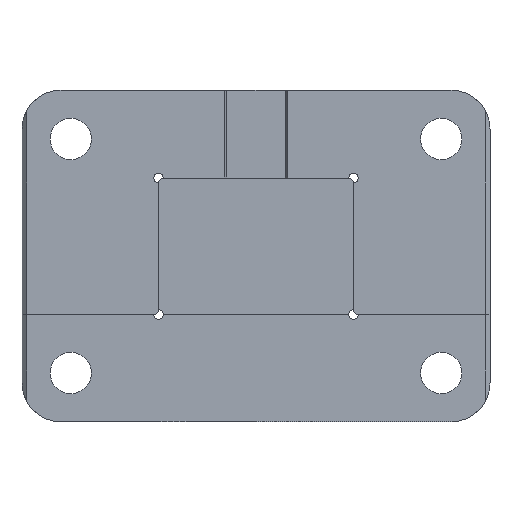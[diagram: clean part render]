
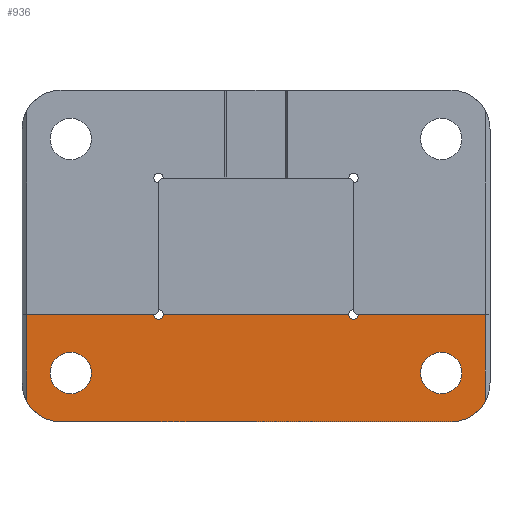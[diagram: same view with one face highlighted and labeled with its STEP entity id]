
A CAD part, front view. The second image highlights one B-rep face of the part: STEP entity #936.
In plain terms, the highlighted planar face has unit normal (0, -1, 0).
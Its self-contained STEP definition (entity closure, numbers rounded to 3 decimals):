
#38=PLANE('',#1026);
#71=CIRCLE('',#1012,1.524);
#77=CIRCLE('',#1024,1.524);
#79=CIRCLE('',#1027,6.731);
#80=CIRCLE('',#1028,6.731);
#81=CIRCLE('',#1029,12.7);
#82=CIRCLE('',#1030,12.7);
#143=ORIENTED_EDGE('',*,*,#397,.F.);
#144=ORIENTED_EDGE('',*,*,#398,.F.);
#145=ORIENTED_EDGE('',*,*,#399,.F.);
#146=ORIENTED_EDGE('',*,*,#400,.T.);
#147=ORIENTED_EDGE('',*,*,#401,.F.);
#148=ORIENTED_EDGE('',*,*,#394,.T.);
#149=ORIENTED_EDGE('',*,*,#402,.F.);
#150=ORIENTED_EDGE('',*,*,#376,.T.);
#151=ORIENTED_EDGE('',*,*,#403,.F.);
#152=ORIENTED_EDGE('',*,*,#404,.F.);
#153=ORIENTED_EDGE('',*,*,#405,.F.);
#154=ORIENTED_EDGE('',*,*,#406,.F.);
#376=EDGE_CURVE('',#501,#506,#71,.T.);
#394=EDGE_CURVE('',#519,#518,#77,.T.);
#397=EDGE_CURVE('',#521,#521,#79,.T.);
#398=EDGE_CURVE('',#522,#522,#80,.T.);
#399=EDGE_CURVE('',#523,#524,#81,.T.);
#400=EDGE_CURVE('',#523,#525,#609,.T.);
#401=EDGE_CURVE('',#519,#525,#610,.T.);
#402=EDGE_CURVE('',#501,#518,#611,.T.);
#403=EDGE_CURVE('',#526,#506,#612,.T.);
#404=EDGE_CURVE('',#527,#526,#613,.T.);
#405=EDGE_CURVE('',#528,#527,#82,.T.);
#406=EDGE_CURVE('',#524,#528,#614,.T.);
#501=VERTEX_POINT('',#1404);
#506=VERTEX_POINT('',#1413);
#518=VERTEX_POINT('',#1449);
#519=VERTEX_POINT('',#1451);
#521=VERTEX_POINT('',#1457);
#522=VERTEX_POINT('',#1459);
#523=VERTEX_POINT('',#1461);
#524=VERTEX_POINT('',#1462);
#525=VERTEX_POINT('',#1464);
#526=VERTEX_POINT('',#1468);
#527=VERTEX_POINT('',#1470);
#528=VERTEX_POINT('',#1472);
#609=LINE('',#1463,#693);
#610=LINE('',#1465,#694);
#611=LINE('',#1466,#695);
#612=LINE('',#1467,#696);
#613=LINE('',#1469,#697);
#614=LINE('',#1473,#698);
#693=VECTOR('',#1171,1000.);
#694=VECTOR('',#1172,1000.);
#695=VECTOR('',#1173,1000.);
#696=VECTOR('',#1174,1000.);
#697=VECTOR('',#1175,1000.);
#698=VECTOR('',#1178,1000.);
#768=EDGE_LOOP('',(#143));
#769=EDGE_LOOP('',(#144));
#770=EDGE_LOOP('',(#145,#146,#147,#148,#149,#150,#151,#152,#153,#154));
#842=FACE_BOUND('',#768,.T.);
#843=FACE_BOUND('',#769,.T.);
#844=FACE_BOUND('',#770,.T.);
#936=ADVANCED_FACE('',(#842,#843,#844),#38,.F.);
#1012=AXIS2_PLACEMENT_3D('',#1414,#1122,#1123);
#1024=AXIS2_PLACEMENT_3D('',#1450,#1158,#1159);
#1026=AXIS2_PLACEMENT_3D('',#1455,#1163,#1164);
#1027=AXIS2_PLACEMENT_3D('',#1456,#1165,#1166);
#1028=AXIS2_PLACEMENT_3D('',#1458,#1167,#1168);
#1029=AXIS2_PLACEMENT_3D('',#1460,#1169,#1170);
#1030=AXIS2_PLACEMENT_3D('',#1471,#1176,#1177);
#1122=DIRECTION('',(0.,1.,0.));
#1123=DIRECTION('',(1.,0.,0.));
#1158=DIRECTION('',(0.,1.,0.));
#1159=DIRECTION('',(1.,0.,0.));
#1163=DIRECTION('',(0.,1.,0.));
#1164=DIRECTION('',(0.,0.,1.));
#1165=DIRECTION('',(0.,-1.,0.));
#1166=DIRECTION('',(0.,0.,-1.));
#1167=DIRECTION('',(0.,-1.,0.));
#1168=DIRECTION('',(0.,0.,-1.));
#1169=DIRECTION('',(0.,1.,0.));
#1170=DIRECTION('',(1.,0.,0.));
#1171=DIRECTION('',(0.,0.,1.));
#1172=DIRECTION('',(1.,0.,0.));
#1173=DIRECTION('',(1.,0.,0.));
#1174=DIRECTION('',(1.,0.,0.));
#1175=DIRECTION('',(0.,0.,1.));
#1176=DIRECTION('',(0.,1.,0.));
#1177=DIRECTION('',(1.,0.,0.));
#1178=DIRECTION('',(-1.,0.,0.));
#1404=CARTESIAN_POINT('',(-30.226,0.,0.));
#1413=CARTESIAN_POINT('',(-33.274,0.,0.));
#1414=CARTESIAN_POINT('',(-31.75,0.,0.));
#1449=CARTESIAN_POINT('',(30.226,0.,0.));
#1450=CARTESIAN_POINT('',(31.75,0.,0.));
#1451=CARTESIAN_POINT('',(33.274,0.,0.));
#1455=CARTESIAN_POINT('',(-63.5,0.,-22.225));
#1456=CARTESIAN_POINT('',(-60.325,0.,-19.05));
#1457=CARTESIAN_POINT('',(-60.325,0.,-25.781));
#1458=CARTESIAN_POINT('',(60.325,0.,-19.05));
#1459=CARTESIAN_POINT('',(60.325,0.,-25.781));
#1460=CARTESIAN_POINT('',(63.5,0.,-22.225));
#1461=CARTESIAN_POINT('',(74.676,0.,-28.257));
#1462=CARTESIAN_POINT('',(63.5,0.,-34.925));
#1463=CARTESIAN_POINT('',(74.676,0.,-34.925));
#1464=CARTESIAN_POINT('',(74.676,0.,0.));
#1465=CARTESIAN_POINT('',(33.274,0.,0.));
#1466=CARTESIAN_POINT('',(-63.5,0.,0.));
#1467=CARTESIAN_POINT('',(-76.2,0.,0.));
#1468=CARTESIAN_POINT('',(-74.676,0.,0.));
#1469=CARTESIAN_POINT('',(-74.676,0.,-34.925));
#1470=CARTESIAN_POINT('',(-74.676,0.,-28.257));
#1471=CARTESIAN_POINT('',(-63.5,0.,-22.225));
#1472=CARTESIAN_POINT('',(-63.5,0.,-34.925));
#1473=CARTESIAN_POINT('',(63.5,0.,-34.925));
